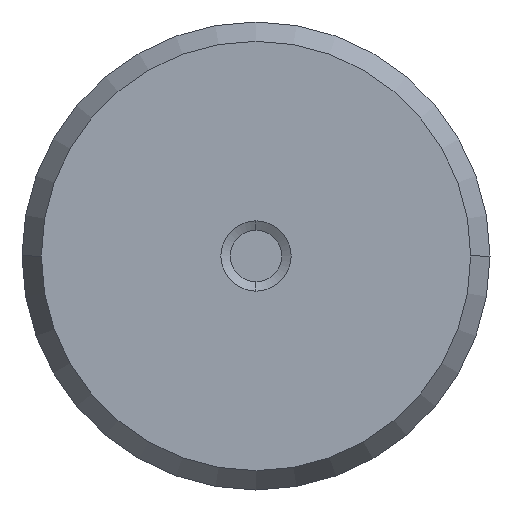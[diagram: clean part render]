
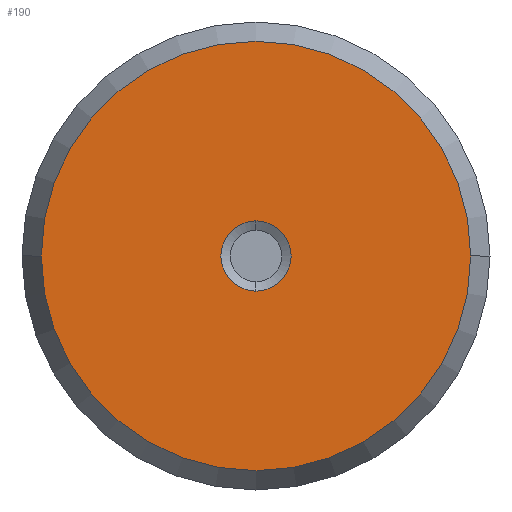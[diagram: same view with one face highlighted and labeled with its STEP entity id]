
A CAD part, front view. The second image highlights one B-rep face of the part: STEP entity #190.
In plain terms, the highlighted planar face has unit normal (0, -1, 0) as drawn and (0, 1, 0) by its records, which use the part's own axes.
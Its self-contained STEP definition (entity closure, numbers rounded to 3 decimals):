
#24 = EDGE_CURVE ( 'NONE', #94, #700, #472, .T. ) ;
#28 = CIRCLE ( 'NONE', #635, 2.1 ) ;
#40 = ORIENTED_EDGE ( 'NONE', *, *, #596, .F. ) ;
#49 = CARTESIAN_POINT ( 'NONE',  ( 0., 17.5, 0. ) ) ;
#87 = AXIS2_PLACEMENT_3D ( 'NONE', #408, #633, #137 ) ;
#94 = VERTEX_POINT ( 'NONE', #122 ) ;
#102 = DIRECTION ( 'NONE',  ( -1., 0., 0. ) ) ;
#122 = CARTESIAN_POINT ( 'NONE',  ( 12.845, 17.5, 0. ) ) ;
#137 = DIRECTION ( 'NONE',  ( 0., 0., 1. ) ) ;
#161 = ORIENTED_EDGE ( 'NONE', *, *, #221, .T. ) ;
#190 = ADVANCED_FACE ( 'NONE', ( #464, #678 ), #405, .T. ) ;
#221 = EDGE_CURVE ( 'NONE', #700, #94, #492, .T. ) ;
#330 = DIRECTION ( 'NONE',  ( 0., 1., 0. ) ) ;
#339 = AXIS2_PLACEMENT_3D ( 'NONE', #409, #348, #682 ) ;
#342 = ORIENTED_EDGE ( 'NONE', *, *, #24, .T. ) ;
#348 = DIRECTION ( 'NONE',  ( 0., 1., 0. ) ) ;
#405 = PLANE ( 'NONE',  #339 ) ;
#408 = CARTESIAN_POINT ( 'NONE',  ( 0., 17.5, 0. ) ) ;
#409 = CARTESIAN_POINT ( 'NONE',  ( 0., 17.5, 0. ) ) ;
#417 = VERTEX_POINT ( 'NONE', #435 ) ;
#419 = CARTESIAN_POINT ( 'NONE',  ( 0., 17.5, -2.1 ) ) ;
#424 = ORIENTED_EDGE ( 'NONE', *, *, #695, .F. ) ;
#435 = CARTESIAN_POINT ( 'NONE',  ( 0., 17.5, 2.1 ) ) ;
#446 = AXIS2_PLACEMENT_3D ( 'NONE', #49, #489, #102 ) ;
#451 = DIRECTION ( 'NONE',  ( 0., 1., 0. ) ) ;
#464 = FACE_BOUND ( 'NONE', #589, .T. ) ;
#472 = CIRCLE ( 'NONE', #637, 12.845 ) ;
#489 = DIRECTION ( 'NONE',  ( 0., 1., 0. ) ) ;
#492 = CIRCLE ( 'NONE', #446, 12.845 ) ;
#506 = DIRECTION ( 'NONE',  ( 0., 0., 1. ) ) ;
#561 = DIRECTION ( 'NONE',  ( -1., 0., 0. ) ) ;
#586 = EDGE_LOOP ( 'NONE', ( #342, #161 ) ) ;
#589 = EDGE_LOOP ( 'NONE', ( #40, #424 ) ) ;
#596 = EDGE_CURVE ( 'NONE', #417, #615, #601, .T. ) ;
#601 = CIRCLE ( 'NONE', #87, 2.1 ) ;
#604 = CARTESIAN_POINT ( 'NONE',  ( 0., 17.5, 0. ) ) ;
#615 = VERTEX_POINT ( 'NONE', #419 ) ;
#633 = DIRECTION ( 'NONE',  ( 0., 1., 0. ) ) ;
#635 = AXIS2_PLACEMENT_3D ( 'NONE', #604, #330, #506 ) ;
#637 = AXIS2_PLACEMENT_3D ( 'NONE', #654, #451, #561 ) ;
#654 = CARTESIAN_POINT ( 'NONE',  ( 0., 17.5, 0. ) ) ;
#660 = CARTESIAN_POINT ( 'NONE',  ( -12.845, 17.5, 0. ) ) ;
#678 = FACE_OUTER_BOUND ( 'NONE', #586, .T. ) ;
#682 = DIRECTION ( 'NONE',  ( -1., 0., 0. ) ) ;
#695 = EDGE_CURVE ( 'NONE', #615, #417, #28, .T. ) ;
#700 = VERTEX_POINT ( 'NONE', #660 ) ;
